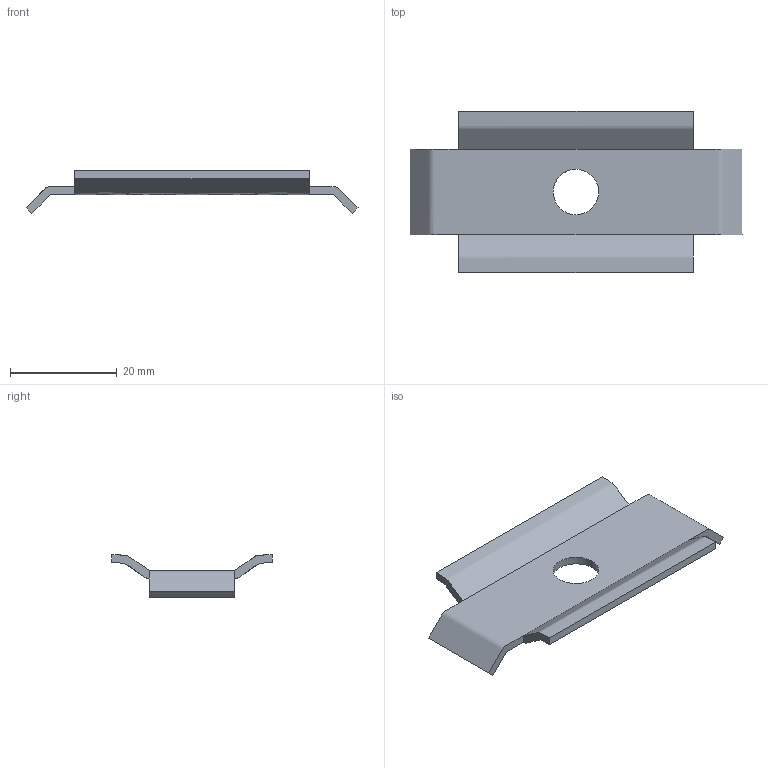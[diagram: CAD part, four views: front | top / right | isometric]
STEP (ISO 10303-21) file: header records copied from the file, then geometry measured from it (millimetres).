
FILE_DESCRIPTION(/* description */ (''),/* implementation_level */ '2;1');
FILE_NAME(/* name */ 'SVSM',/* time_stamp */ '2025-03-13T21:04:04+01:00',/* author */ (''),/* organization */ (''),/* preprocessor_version */ 'ST-DEVELOPER v16.5',/* originating_system */ '',/* authorisation */ '');
FILE_SCHEMA (('CONFIG_CONTROL_DESIGN'));
Length unit declared in the file: millimetre
Products named in the file (1): Document
Bounding box: 62.19 x 30.16 x 8.04 mm (x, y, z)
Surface area: 3734.6 mm2 (no closed solid volume)
Topology: 0 solids, 1 shells, 22 faces, 63 edges, 37 vertices
Faces by surface type: plane 17, bspline 4, cylinder 1
Full cylindrical faces by diameter (mm): 8.5 x1
Entity records: 838 total; most frequent: CARTESIAN_POINT 377, ORIENTED_EDGE 113, EDGE_CURVE 63, VERTEX_POINT 37, B_SPLINE_CURVE_WITH_KNOTS 32, EDGE_LOOP 24, ADVANCED_FACE 22, FACE_OUTER_BOUND 22
